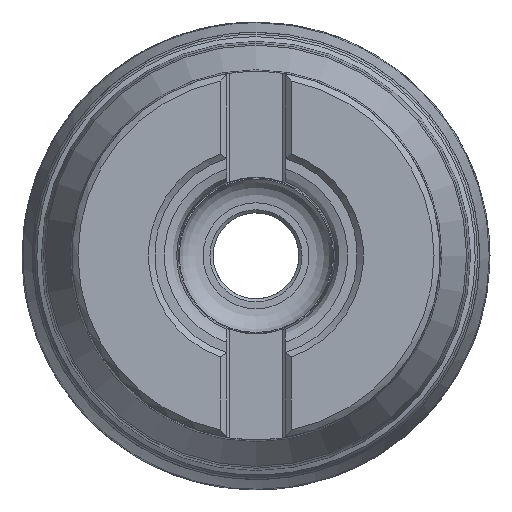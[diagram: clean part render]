
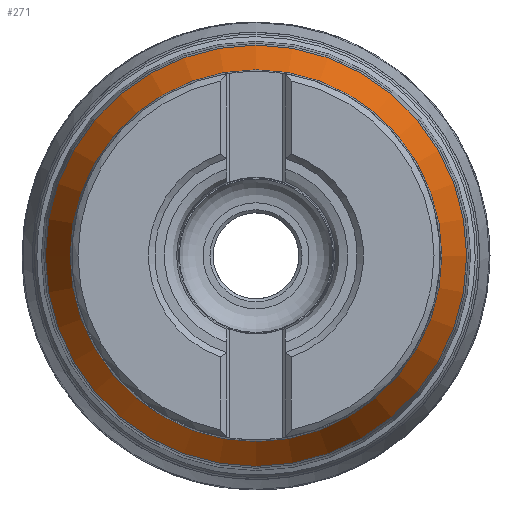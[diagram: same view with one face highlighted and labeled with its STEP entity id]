
A CAD part, top view. The second image highlights one B-rep face of the part: STEP entity #271.
In plain terms, the highlighted conical face has half-angle 24.622 degrees and reference radius 30 mm.
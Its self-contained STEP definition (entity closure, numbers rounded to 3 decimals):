
#99=CONICAL_SURFACE('',#1248,30.,24.622);
#271=ADVANCED_FACE('',(#385,#386),#99,.T.);
#385=FACE_BOUND('',#523,.T.);
#386=FACE_BOUND('',#524,.T.);
#523=EDGE_LOOP('',(#704));
#524=EDGE_LOOP('',(#705));
#704=ORIENTED_EDGE('',*,*,#1066,.T.);
#705=ORIENTED_EDGE('',*,*,#1067,.T.);
#956=VERTEX_POINT('',#1818);
#957=VERTEX_POINT('',#1820);
#1066=EDGE_CURVE('',#956,#956,#1180,.T.);
#1067=EDGE_CURVE('',#957,#957,#1181,.T.);
#1180=CIRCLE('',#1246,30.273);
#1181=CIRCLE('',#1247,34.31);
#1246=AXIS2_PLACEMENT_3D('',#1817,#1427,#1428);
#1247=AXIS2_PLACEMENT_3D('',#1819,#1429,#1430);
#1248=AXIS2_PLACEMENT_3D('',#1821,#1431,#1432);
#1427=DIRECTION('',(0.,0.,-1.));
#1428=DIRECTION('',(-1.,0.,0.));
#1429=DIRECTION('',(0.,0.,1.));
#1430=DIRECTION('',(1.,0.,0.));
#1431=DIRECTION('',(0.,0.,-1.));
#1432=DIRECTION('',(1.,0.,0.));
#1817=CARTESIAN_POINT('',(0.,0.,37.405));
#1818=CARTESIAN_POINT('',(-30.273,0.,37.405));
#1819=CARTESIAN_POINT('',(0.,0.,28.595));
#1820=CARTESIAN_POINT('',(34.31,0.,28.595));
#1821=CARTESIAN_POINT('',(0.,0.,38.));
